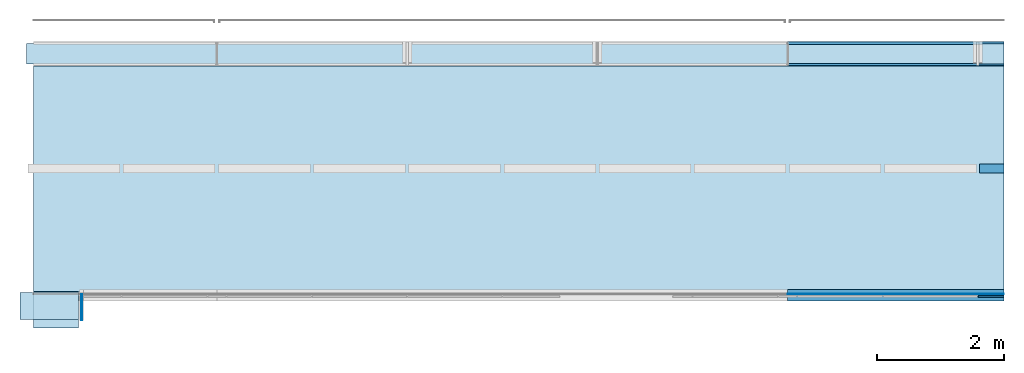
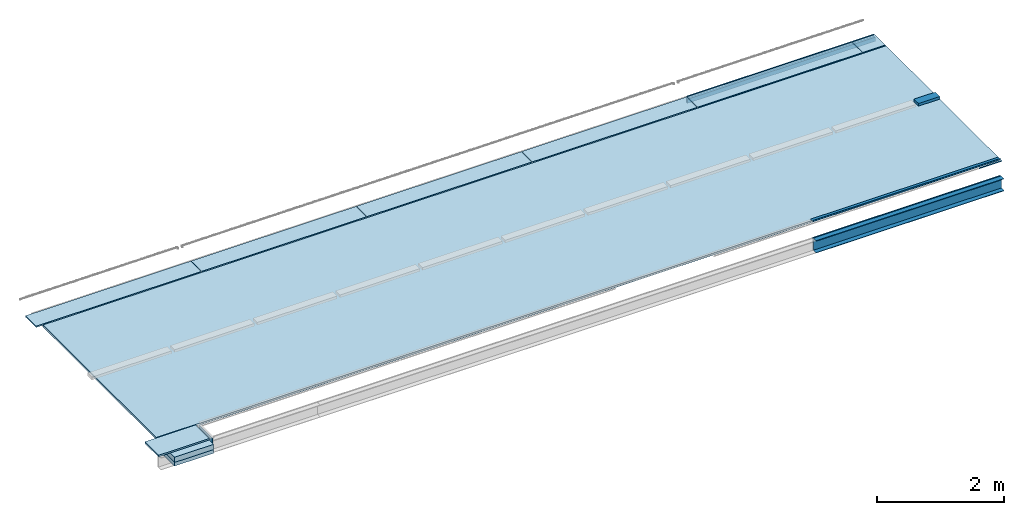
# One storey, part 2 of 3: 10 slabs, 7 beams, 1 member, 1 wall, 1 element without a shape of its own.
"""IFC2X3 building model written with IfcOpenShell, lengths in millimetres."""

from ifc_helpers import new_model, entity, si_unit, converted_unit, derived_unit, direction, frame, frame_2d, origin, origin_with_axes, place, context, subcontext, project, spatial, rectangle, extrude, faceted_brep, material, layer, layer_set, layer_usage, type_object, element, aggregate, save


model = new_model("IFC2X3")

# Units and contexts
model_context = context("Model", 3, precision=0.01, world=frame((0.0, 4.29681676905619e-09, 0.0)), true_north=direction((4.01073788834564e-13, 1.0)))
plan_context = context("Plan", 3, precision=0.01, world=frame((0.0, 4.29681676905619e-09, 0.0)), true_north=direction((4.01073788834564e-13, 1.0)))
body_context = subcontext(model_context, "Body", "Model", "MODEL_VIEW")
ifc_project = project(units=[converted_unit("PLANEANGLEUNIT", "DEGREE", entity("IfcPositiveLengthMeasure", 0.0174532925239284), si_unit("PLANEANGLEUNIT", "RADIAN"), dimensions=[0, 0, 0, 0, 0, 0, 0]), si_unit("AREAUNIT", "SQUARE_METRE"), si_unit("LENGTHUNIT", "METRE", prefix="MILLI"), si_unit("MASSUNIT", "GRAM", prefix="KILO"), si_unit("POWERUNIT", "WATT"), si_unit("PRESSUREUNIT", "PASCAL"), si_unit("FORCEUNIT", "NEWTON", prefix="KILO"), si_unit("ELECTRICVOLTAGEUNIT", "VOLT"), si_unit("ELECTRICCURRENTUNIT", "AMPERE"), si_unit("THERMODYNAMICTEMPERATUREUNIT", "DEGREE_CELSIUS"), si_unit("TIMEUNIT", "SECOND"), si_unit("VOLUMEUNIT", "CUBIC_METRE"), derived_unit("LINEARVELOCITYUNIT", [(si_unit("LENGTHUNIT", "METRE"), 1), (si_unit("TIMEUNIT", "SECOND"), -1)]), derived_unit("VOLUMETRICFLOWRATEUNIT", [(si_unit("VOLUMEUNIT", "CUBIC_METRE"), 1), (si_unit("TIMEUNIT", "SECOND"), -1)]), derived_unit("THERMALTRANSMITTANCEUNIT", [(si_unit("POWERUNIT", "WATT"), 1), (si_unit("THERMODYNAMICTEMPERATUREUNIT", "KELVIN"), -1), (si_unit("AREAUNIT", "SQUARE_METRE"), -1)]), derived_unit("SOUNDPRESSUREUNIT", [(si_unit("PRESSUREUNIT", "PASCAL"), 1)])], contexts=[model_context, plan_context])

# Site, building, storey
site_placement = place(None, origin_with_axes())
site = spatial("IfcSite", under=ifc_project, at=site_placement, Name="ENGM", CompositionType="ELEMENT")
building_placement = place(site_placement, origin_with_axes())
building = spatial("IfcBuilding", under=site, at=building_placement, Name="TH", CompositionType="ELEMENT")
storey_placement = place(building_placement, frame((0.0, 0.0, 213700.0), z_axis=(0.0, 0.0, 1.0), x_axis=(1.0, 0.0, 0.0)))
storey = spatial("IfcBuildingStorey", under=building, at=storey_placement, Name="Nivå G - 2,0 m", CompositionType="ELEMENT", Elevation=213700.0)

# Beams
beam_type_1 = type_object("IfcBeamType", Name="B223 - Bjelke - Flatstål:B223 - Bjelke - Flatstål - w240 h 8", PredefinedType="BEAM")
beam_1_placement = place(storey_placement, frame((907000.000000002, 480844.004374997, -300.0), z_axis=(0.0, 0.0, 1.0), x_axis=(1.0, 0.0, 0.0)))
element("IfcBeam", 1, at=beam_1_placement, inside=storey, type_object=beam_type_1, Name="B223 - Bjelke - Flatstål:B223 - Bjelke - Flatstål - w240 h 8", ObjectType="B223 - Bjelke - Flatstål:B223 - Bjelke - Flatstål - w240 h 8", context=body_context, shape_type="Brep", body=[
    faceted_brep([(3410.58484179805, 3.99999999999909, 7.37543359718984e-12), (3410.58484179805, -3.99999999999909, 7.37543359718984e-12), (0.0, -3.99999999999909, 7.37543359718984e-12), (0.0, 3.99999999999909, 7.37543359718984e-12), (3410.58484179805, -3.99999999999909, -240.000000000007), (0.0, -3.99999999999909, -240.000000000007), (3410.58484179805, 3.99999999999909, -240.000000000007), (0.0, 3.99999999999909, -240.000000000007)], [[[0, 1, 2, 3]], [[1, 4, 5, 2]], [[4, 6, 7, 5]], [[6, 0, 3, 7]], [[3, 2, 5, 7]], [[6, 4, 1, 0]]], orient=[[False], [False], [False], [False], [False], [False]]),
])
beam_type_2 = type_object("IfcBeamType", Name="B223 - Bjelke - UNP:B223 - UNP 240", PredefinedType="BEAM")
beam_2_placement = place(storey_placement, frame((907000.000000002, 480777.504374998, -300.0), z_axis=(0.0, 0.0, 1.0), x_axis=(1.0, 0.0, 0.0)))
element("IfcBeam", 2, at=beam_2_placement, inside=storey, type_object=beam_type_2, Name="B223 - Bjelke - UNP:B223 - UNP 240", ObjectType="B223 - Bjelke - UNP:B223 - UNP 240", context=body_context, shape_type="Brep", body=[
    faceted_brep([(3410.58484179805, 33.0000000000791, -224.923815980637), (3410.58484179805, -42.4999999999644, -229.673873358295), (0.0, -42.4999999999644, -229.673873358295), (0.0, 33.0000000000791, -224.923815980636), (3410.58484179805, -42.4999999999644, -240.0), (0.0, -42.4999999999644, -240.0), (3410.58484179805, 42.500000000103, -240.0), (0.0, 42.500000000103, -240.0), (3410.58484179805, 42.5000000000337, 0.0), (0.0, 42.5000000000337, 0.0), (3410.58484179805, -42.4999999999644, 0.0), (0.0, -42.4999999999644, 0.0), (3410.58484179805, -42.4999999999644, -10.3261266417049), (0.0, -42.4999999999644, -10.3261266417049), (3410.58484179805, 33.0000000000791, -15.0761840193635), (0.0, 33.0000000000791, -15.0761840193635)], [[[0, 1, 2, 3]], [[1, 4, 5, 2]], [[4, 6, 7, 5]], [[6, 8, 9, 7]], [[8, 10, 11, 9]], [[10, 12, 13, 11]], [[12, 14, 15, 13]], [[14, 0, 3, 15]], [[3, 2, 5, 7, 9, 11, 13, 15]], [[14, 12, 10, 8, 6, 4, 1, 0]]], orient=[[False], [False], [False], [False], [False], [False], [False], [False], [False], [False]]),
])
beam_type_3 = type_object("IfcBeamType", Name="B223 - Bjelke - L:B223 -80x25x4", PredefinedType="BEAM")
beam_3_placement = place(storey_placement, frame((907000.000000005, 480835.999999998, 0.0), z_axis=(0.0, 0.0, 1.0), x_axis=(1.0, 0.0, 0.0)))
element("IfcBeam", 3, at=beam_3_placement, inside=storey, type_object=beam_type_3, Name="B223 - Bjelke - L:B223 -80x25x4", ObjectType="B223 - Bjelke - L:B223 -80x25x4", context=body_context, shape_type="Brep", body=[
    faceted_brep([(3410.58484179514, 4.0, 25.0000000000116), (3410.58484179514, 0.0, 25.0000000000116), (0.0, 0.0, 25.0000000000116), (0.0, 4.0, 25.0000000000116), (3410.58484179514, 0.0, 0.0), (0.0, 0.0, 0.0), (3410.58484179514, 80.0, 0.0), (0.0, 80.0, 0.0), (3410.58484179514, 80.0, 3.99999999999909), (0.0, 80.0, 3.99999999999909), (3410.58484179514, 4.0, 3.99999999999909), (0.0, 4.0, 3.99999999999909)], [[[0, 1, 2, 3]], [[1, 4, 5, 2]], [[4, 6, 7, 5]], [[6, 8, 9, 7]], [[8, 10, 11, 9]], [[10, 0, 3, 11]], [[3, 2, 5, 7, 9, 11]], [[10, 8, 6, 4, 1, 0]]], orient=[[False], [False], [False], [False], [False], [False], [False], [False]]),
])
beam_type_4 = type_object("IfcBeamType", Name="B223 - Bjelke - L:B223 - 25x25x5", PredefinedType="BEAM")
beam_4_placement = place(storey_placement, frame((910007.500000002, 480820.004374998, 0.0), z_axis=(0.0, 0.0, 1.0), x_axis=(1.0, 0.0, 0.0)))
element("IfcBeam", 4, at=beam_4_placement, inside=storey, type_object=beam_type_4, Name="B223 - Bjelke - L:B223 - 25x25x5", ObjectType="B223 - Bjelke - L:B223 - 25x25x5", context=body_context, shape_type="Brep", body=[
    faceted_brep([(403.084841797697, 0.0, 0.0), (403.084841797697, -25.0, 0.0), (0.0, -25.0, 0.0), (0.0, 0.0, 0.0), (403.084841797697, -25.0, -5.0), (0.0, -25.0, -5.0), (403.084841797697, -5.0, -5.0), (0.0, -5.0, -5.0), (403.084841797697, -5.0, -25.0), (0.0, -5.0, -25.0), (403.084841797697, 0.0, -25.0), (0.0, 0.0, -25.0)], [[[0, 1, 2, 3]], [[1, 4, 5, 2]], [[4, 6, 7, 5]], [[6, 8, 9, 7]], [[8, 10, 11, 9]], [[10, 0, 3, 11]], [[3, 2, 5, 7, 9, 11]], [[10, 8, 6, 4, 1, 0]]], orient=[[False], [False], [False], [False], [False], [False], [False], [False]]),
])
beam_type_5 = type_object("IfcBeamType", Name="B223 - Bjelke - L:B223 - 40x40x4", PredefinedType="BEAM")
beam_5_placement = place(storey_placement, frame((907000.000000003, 484799.999999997, -40.0), z_axis=(0.0, 0.0, 1.0), x_axis=(1.0, 0.0, 0.0)))
element("IfcBeam", 5, at=beam_5_placement, inside=storey, type_object=beam_type_5, Name="B223 - Bjelke - L:B223 - 40x40x4", ObjectType="B223 - Bjelke - L:B223 - 40x40x4", context=body_context, shape_type="Brep", body=[
    faceted_brep([(3410.58484179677, 16.0000000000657, 3.99999999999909), (3410.58484179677, -19.9999999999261, 3.99999999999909), (0.0, -19.9999999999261, 3.99999999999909), (0.0, 16.0000000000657, 3.99999999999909), (3410.58484179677, -19.9999999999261, 0.0), (0.0, -19.9999999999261, 0.0), (3410.58484179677, 20.0000000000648, 0.0), (0.0, 20.0000000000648, 0.0), (3410.58484179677, 20.0000000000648, 39.9999999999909), (0.0, 20.0000000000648, 39.9999999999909), (3410.58484179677, 16.0000000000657, 39.9999999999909), (0.0, 16.0000000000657, 39.9999999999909)], [[[0, 1, 2, 3]], [[1, 4, 5, 2]], [[4, 6, 7, 5]], [[6, 8, 9, 7]], [[8, 10, 11, 9]], [[10, 0, 3, 11]], [[3, 2, 5, 7, 9, 11]], [[10, 8, 6, 4, 1, 0]]], orient=[[False], [False], [False], [False], [False], [False], [False], [False]]),
])
beam_6_placement = place(storey_placement, frame((907000.000000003, 484459.999999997, -40.0), z_axis=(0.0, 0.0, 1.0), x_axis=(1.0, 0.0, 0.0)))
element("IfcBeam", 6, at=beam_6_placement, inside=storey, type_object=beam_type_5, Name="B223 - Bjelke - L:B223 - 40x40x4", ObjectType="B223 - Bjelke - L:B223 - 40x40x4", context=body_context, shape_type="Brep", body=[
    faceted_brep([(3410.58484179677, -15.9999999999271, 39.9999999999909), (3410.58484179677, -19.9999999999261, 39.9999999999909), (0.0, -19.9999999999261, 39.9999999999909), (0.0, -15.9999999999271, 39.9999999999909), (3410.58484179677, -19.9999999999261, 0.0), (0.0, -19.9999999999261, 0.0), (3410.58484179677, 20.0000000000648, 0.0), (0.0, 20.0000000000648, 0.0), (3410.58484179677, 20.0000000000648, 3.99999999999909), (0.0, 20.0000000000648, 3.99999999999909), (3410.58484179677, -15.9999999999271, 3.99999999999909), (0.0, -15.9999999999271, 3.99999999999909)], [[[0, 1, 2, 3]], [[1, 4, 5, 2]], [[4, 6, 7, 5]], [[6, 8, 9, 7]], [[8, 10, 11, 9]], [[10, 0, 3, 11]], [[3, 2, 5, 7, 9, 11]], [[10, 8, 6, 4, 1, 0]]], orient=[[False], [False], [False], [False], [False], [False], [False], [False]]),
])
beam_type_6 = type_object("IfcBeamType", Name="B223 - Bjelke - HUP:B223 - HUP 40x80x4mm", PredefinedType="BEAM")
beam_7_placement = place(storey_placement, frame((907000.000000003, 484799.999999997, -120.0), z_axis=(0.0, 0.0, 1.0), x_axis=(1.0, 0.0, 0.0)))
element("IfcBeam", 7, at=beam_7_placement, inside=storey, type_object=beam_type_6, Name="B223 - Bjelke - HUP:B223 - HUP 40x80x4mm", ObjectType="B223 - Bjelke - HUP:B223 - HUP 40x80x4mm", context=body_context, shape_type="Brep", body=[
    faceted_brep([(3410.58484179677, 20.0000000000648, 79.9999999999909), (3410.58484179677, -19.9999999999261, 79.9999999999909), (0.0, -19.9999999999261, 79.9999999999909), (0.0, 20.0000000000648, 79.9999999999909), (3410.58484179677, -19.9999999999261, 9.09494701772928e-12), (0.0, -19.9999999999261, 9.09494701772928e-12), (3410.58484179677, 20.0000000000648, 9.09494701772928e-12), (0.0, 20.0000000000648, 9.09494701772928e-12), (0.0, 15.9999999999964, 4.00000000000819), (0.0, -15.9999999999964, 4.00000000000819), (0.0, -15.9999999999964, 75.9999999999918), (0.0, 15.9999999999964, 75.9999999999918), (3410.58484179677, -15.9999999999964, 75.9999999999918), (3410.58484179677, 15.9999999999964, 75.9999999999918), (3410.58484179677, -15.9999999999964, 4.00000000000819), (3410.58484179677, 15.9999999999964, 4.00000000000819)], [[[0, 1, 2, 3]], [[1, 4, 5, 2]], [[4, 6, 7, 5]], [[6, 0, 3, 7]], [[3, 2, 5, 7], [8, 9, 10, 11]], [[12, 13, 11, 10]], [[14, 12, 10, 9]], [[15, 14, 9, 8]], [[13, 15, 8, 11]], [[6, 4, 1, 0], [14, 15, 13, 12]]], orient=[[False], [False], [False], [False], [False, False], [False], [False], [False], [False], [False, False]]),
])

# Curtain wall, member
curtain_wall_type = type_object("IfcCurtainWallType", Name="Curtain Wall:A242 - IGV", PredefinedType="NOTDEFINED")
curtain_wall_placement = place(storey_placement, frame((0.0, 0.0, -213700.0), z_axis=(0.0, 0.0, 1.0), x_axis=(1.0, 0.0, 0.0)))
curtain_wall = element("IfcCurtainWall", 8, at=curtain_wall_placement, inside=storey, type_object=curtain_wall_type, Name="Curtain Wall:A242 - IGV", ObjectType="Curtain Wall:A242 - IGV")
ifc_material_1 = material(Name="T2_Metal_Aluminium")
member_type = type_object("IfcMemberType", Name="Rectangular Mullion:A233 - Sprosse 50 mm - 100(post)+40(dekkprofil)", PredefinedType="MULLION", material=ifc_material_1)
member_placement = place(curtain_wall_placement, frame((911475.045795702, 482793.174999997, 213700.0), z_axis=(1.0, 0.0, 0.0), x_axis=(0.0, 0.0, -1.0)))
member = element("IfcMember", 9, at=member_placement, type_object=member_type, Name="Rectangular Mullion:A233 - Sprosse 50 mm - 100(post)+40(dekkprofil)", ObjectType="Rectangular Mullion:A233 - Sprosse 50 mm - 100(post)+40(dekkprofil)", context=body_context, shape_type="Brep", body=[
    faceted_brep([(0.0, 99.999999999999, -1064.46095390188), (-50.0, 99.999999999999, -1064.46095390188), (-50.0, 99.999999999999, -1450.0), (0.0, 99.999999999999, -1450.0), (-50.0, -39.999999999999, -1064.46095390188), (-50.0, -39.999999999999, -1450.0), (0.0, -39.999999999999, -1064.46095390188), (0.0, -39.999999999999, -1450.0)], [[[0, 1, 2, 3]], [[1, 4, 5, 2]], [[4, 6, 7, 5]], [[6, 0, 3, 7]], [[3, 2, 5, 7]], [[6, 4, 1, 0]]], orient=[[False], [False], [False], [False], [False], [False]]),
])
aggregate(curtain_wall, [member])

# Slabs
ifc_material_2 = material(Name="Glass(Avinor)")
ifc_layer_1 = layer(ifc_material_2, 27.0)
ifc_layer_set_1 = layer_set([ifc_layer_1], Name="Floor:A254 - eksisterende gangbar glass pir - 27mm")
ifc_layer_usage_1 = layer_usage(ifc_layer_set_1, "AXIS3", "POSITIVE", 0.0)
slab_type_1 = type_object("IfcSlabType", Name="Floor:A254 - eksisterende gangbar glass pir - 27mm", PredefinedType="FLOOR", material=ifc_layer_set_1)
slab_1_placement = place(storey_placement, origin_with_axes())
element("IfcSlab", 10, at=slab_1_placement, inside=storey, type_object=slab_type_1, material=ifc_layer_usage_1, Name="Floor:A254 - eksisterende gangbar glass pir - 27mm", ObjectType="Floor:A254 - eksisterende gangbar glass pir - 27mm", PredefinedType="FLOOR", context=body_context, shape_type="SweptSolid", body=[
    extrude(rectangle(XDim=330.000000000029, YDim=2995.00000000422, at=frame_2d((-3.46602746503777e-11, -1.10890141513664e-09), x_axis=(1.0, 0.0))), frame((896500.0, 484630.000000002, 0.0), z_axis=(0.0, 0.0, -1.0), x_axis=(0.0, 1.0, 0.0)), (0.0, 0.0, 1.0), 27.0000000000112),
])
ifc_layer_usage_2 = layer_usage(ifc_layer_set_1, "AXIS3", "POSITIVE", 0.0)
slab_2_placement = place(storey_placement, origin_with_axes())
element("IfcSlab", 11, at=slab_2_placement, inside=storey, type_object=slab_type_1, material=ifc_layer_usage_2, Name="Floor:A254 - eksisterende gangbar glass pir - 27mm", ObjectType="Floor:A254 - eksisterende gangbar glass pir - 27mm", PredefinedType="FLOOR", context=body_context, shape_type="SweptSolid", body=[
    extrude(rectangle(XDim=330.000000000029, YDim=2995.00000000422, at=frame_2d((-3.46602746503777e-11, -9.70203473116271e-10), x_axis=(1.0, 0.0))), frame((899500.0, 484630.000000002, 0.0), z_axis=(0.0, 0.0, -1.0), x_axis=(0.0, 1.0, 0.0)), (0.0, 0.0, 1.0), 27.0000000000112),
])
ifc_layer_usage_3 = layer_usage(ifc_layer_set_1, "AXIS3", "POSITIVE", 0.0)
slab_3_placement = place(storey_placement, origin_with_axes())
element("IfcSlab", 12, at=slab_3_placement, inside=storey, type_object=slab_type_1, material=ifc_layer_usage_3, Name="Floor:A254 - eksisterende gangbar glass pir - 27mm", ObjectType="Floor:A254 - eksisterende gangbar glass pir - 27mm", PredefinedType="FLOOR", context=body_context, shape_type="SweptSolid", body=[
    extrude(rectangle(XDim=330.000000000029, YDim=2995.00000000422, at=frame_2d((-3.46602746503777e-11, -1.10890141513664e-09), x_axis=(1.0, 0.0))), frame((902500.0, 484630.000000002, 0.0), z_axis=(0.0, 0.0, -1.0), x_axis=(0.0, 1.0, 0.0)), (0.0, 0.0, 1.0), 27.0000000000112),
])
ifc_layer_usage_4 = layer_usage(ifc_layer_set_1, "AXIS3", "POSITIVE", 0.0)
slab_4_placement = place(storey_placement, origin_with_axes())
element("IfcSlab", 13, at=slab_4_placement, inside=storey, type_object=slab_type_1, material=ifc_layer_usage_4, Name="Floor:A254 - eksisterende gangbar glass pir - 27mm", ObjectType="Floor:A254 - eksisterende gangbar glass pir - 27mm", PredefinedType="FLOOR", context=body_context, shape_type="SweptSolid", body=[
    extrude(rectangle(XDim=330.000000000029, YDim=2995.00000000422, at=frame_2d((-3.46602746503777e-11, -9.70203473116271e-10), x_axis=(1.0, 0.0))), frame((905500.0, 484630.000000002, 0.0), z_axis=(0.0, 0.0, -1.0), x_axis=(0.0, 1.0, 0.0)), (0.0, 0.0, 1.0), 27.0000000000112),
])
ifc_layer_usage_5 = layer_usage(ifc_layer_set_1, "AXIS3", "POSITIVE", 0.0)
slab_5_placement = place(storey_placement, origin_with_axes())
element("IfcSlab", 14, at=slab_5_placement, inside=storey, type_object=slab_type_1, material=ifc_layer_usage_5, Name="Floor:A254 - eksisterende gangbar glass pir - 27mm", ObjectType="Floor:A254 - eksisterende gangbar glass pir - 27mm", PredefinedType="FLOOR", context=body_context, shape_type="SweptSolid", body=[
    extrude(rectangle(XDim=330.000000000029, YDim=2995.00000000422, at=frame_2d((-3.46602746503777e-11, -1.10890141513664e-09), x_axis=(1.0, 0.0))), frame((908500.0, 484630.000000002, 0.0), z_axis=(0.0, 0.0, -1.0), x_axis=(0.0, 1.0, 0.0)), (0.0, 0.0, 1.0), 27.0000000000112),
])
slab_6_placement = place(storey_placement, origin_with_axes())
element("IfcSlab", 15, at=slab_6_placement, inside=storey, type_object=slab_type_1, Name="Floor:A254 - eksisterende gangbar glass pir - 27mm", ObjectType="Floor:A254 - eksisterende gangbar glass pir - 27mm", PredefinedType="FLOOR", context=body_context, shape_type="Brep", body=[
    faceted_brep([(910410.5848418, 484465.000000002, 0.0), (910410.5848418, 484465.000000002, -27.0000000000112), (910002.499999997, 484465.000000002, -27.0000000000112), (910002.499999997, 484465.000000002, 0.0), (910002.499999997, 484795.000000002, -27.0000000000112), (910002.499999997, 484795.000000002, 0.0), (910410.5848418, 484795.000000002, -27.0000000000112), (910410.5848418, 484795.000000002, 0.0)], [[[0, 1, 2, 3]], [[3, 2, 4, 5]], [[6, 7, 5, 4]], [[7, 0, 3, 5]], [[1, 6, 4, 2]], [[7, 6, 1, 0]]], orient=[[False], [False], [False], [False], [False], [False]]),
])
ifc_material_3 = material(Name="T2 - Dekke uten skravur")
ifc_layer_2 = layer(ifc_material_3, 40.0)
ifc_layer_set_2 = layer_set([ifc_layer_2], Name="Floor:A254  - Gulvoppbygging m_f.o - 40mm - tre")
slab_type_2 = type_object("IfcSlabType", Name="Floor:A254  - Gulvoppbygging m_f.o - 40mm - tre", PredefinedType="FLOOR", material=ifc_layer_set_2)
slab_7_placement = place(storey_placement, origin_with_axes())
element("IfcSlab", 16, at=slab_7_placement, inside=storey, type_object=slab_type_2, Name="Floor:A254  - Gulvoppbygging m_f.o - 40mm - tre", ObjectType="Floor:A254  - Gulvoppbygging m_f.o - 40mm - tre", PredefinedType="FLOOR", context=body_context, shape_type="Brep", body=[
    faceted_brep([(895111.906168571, 484440.009277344, 0.0), (895111.906168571, 484440.009277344, -39.9999999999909), (910410.5848418, 484440.009277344, -39.9999999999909), (910410.5848418, 484440.009277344, 0.0), (910410.5848418, 480879.999999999, 0.0), (910410.5848418, 480879.999999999, -39.9999999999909), (895111.906168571, 480879.999999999, -39.9999999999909), (895111.906168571, 480879.999999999, 0.0)], [[[0, 1, 2, 3]], [[4, 5, 6, 7]], [[3, 4, 7, 0]], [[5, 2, 1, 6]], [[5, 4, 3, 2]], [[7, 6, 1, 0]]], orient=[[False], [False], [False], [False], [False], [False]]),
])
ifc_material_4 = material(Name="_NSW Generell Gulv (Floor)")
ifc_layer_3 = layer(ifc_material_4, 70.0)
ifc_layer_set_3 = layer_set([ifc_layer_3], Name="Floor:B251 - TRP - 70 mm")
slab_type_3 = type_object("IfcSlabType", Name="Floor:B251 - TRP - 70 mm", PredefinedType="FLOOR", material=ifc_layer_set_3)
slab_8_placement = place(storey_placement, origin_with_axes())
element("IfcSlab", 17, at=slab_8_placement, inside=storey, type_object=slab_type_3, Name="Floor:B251 - TRP - 70 mm", ObjectType="Floor:B251 - TRP - 70 mm", PredefinedType="FLOOR", context=body_context, shape_type="Brep", body=[
    faceted_brep([(895111.906168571, 480305.0, -199.999999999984), (895111.906168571, 480305.0, -130.0), (895822.312500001, 480305.0, -130.0), (895822.312500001, 480305.0, -199.999999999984), (895111.906168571, 480880.0, -130.0), (895111.906168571, 480880.0, -199.999999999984), (895822.312500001, 480880.0, -199.999999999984), (895822.312500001, 480880.0, -130.0)], [[[0, 1, 2, 3]], [[4, 5, 6, 7]], [[7, 6, 3, 2]], [[1, 4, 7, 2]], [[5, 0, 3, 6]], [[5, 4, 1, 0]]], orient=[[False], [False], [False], [False], [False], [False]]),
])
ifc_material_5 = material(Name="_NSW Stål")
ifc_layer_4 = layer(ifc_material_5, 5.0)
ifc_material_6 = material(Name="_NSW Generell")
ifc_layer_5 = layer(ifc_material_6, 25.0)
ifc_layer_set_4 = layer_set([ifc_layer_4, ifc_layer_5], Name="Floor:A254  - Gulvoppbygging m_f.o - 30mm - stålplategulv")
ifc_layer_usage_6 = layer_usage(ifc_layer_set_4, "AXIS3", "POSITIVE", 0.0)
slab_type_4 = type_object("IfcSlabType", Name="Floor:A254  - Gulvoppbygging m_f.o - 30mm - stålplategulv", PredefinedType="FLOOR", material=ifc_layer_set_4)
slab_9_placement = place(storey_placement, frame((891178.0, 480440.0, -30.0), z_axis=(0.0, 0.0, 1.0), x_axis=(1.0, 0.0, 0.0)))
element("IfcSlab", 18, at=slab_9_placement, inside=storey, type_object=slab_type_4, material=ifc_layer_usage_6, Name="Floor:A254  - Gulvoppbygging m_f.o - 30mm - stålplategulv", ObjectType="Floor:A254  - Gulvoppbygging m_f.o - 30mm - stålplategulv", PredefinedType="FLOOR", context=body_context, shape_type="SweptSolid", body=[
    extrude(rectangle(XDim=924.86250000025, YDim=430.000000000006, at=frame_2d((-1859.72499999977, 0.0), x_axis=(-1.0, 0.0))), frame((2322.15625000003, 215.0, 30.0), z_axis=(0.0, 0.0, -1.0), x_axis=(-1.0, 0.0, 0.0)), (0.0, 0.0, 1.0), 29.9999999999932),
])
ifc_material_7 = material(Name="_NSW Gulv (Generell)")
ifc_layer_6 = layer(ifc_material_7, 100.0)
ifc_layer_set_5 = layer_set([ifc_layer_6], Name="Floor:B254 - Påstøp m/f.o - 100 mm")
slab_type_5 = type_object("IfcSlabType", Name="Floor:B254 - Påstøp m/f.o - 100 mm", PredefinedType="FLOOR", material=ifc_layer_set_5)
slab_10_placement = place(storey_placement, origin_with_axes())
element("IfcSlab", 19, at=slab_10_placement, inside=storey, type_object=slab_type_5, Name="Floor:B254 - Påstøp m/f.o - 100 mm", ObjectType="Floor:B254 - Påstøp m/f.o - 100 mm", PredefinedType="FLOOR", context=body_context, shape_type="Brep", body=[
    faceted_brep([(895111.906168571, 480305.0, -130.000000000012), (895111.906168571, 480305.0, -30.0), (895822.312500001, 480305.0, -30.0), (895822.312500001, 480305.0, -130.000000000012), (895111.906168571, 480880.0, -30.0), (895111.906168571, 480880.0, -130.000000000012), (895822.312500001, 480880.0, -130.000000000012), (895822.312500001, 480880.0, -30.0)], [[[0, 1, 2, 3]], [[4, 5, 6, 7]], [[7, 6, 3, 2]], [[1, 4, 7, 2]], [[5, 0, 3, 6]], [[5, 4, 1, 0]]], orient=[[False], [False], [False], [False], [False], [False]]),
])

# Wall
ifc_material_8 = material(Name="T2_Gips Protect F")
ifc_layer_7 = layer(ifc_material_8, 15.0)
ifc_layer_set_6 = layer_set([ifc_layer_7], Name="Basic Wall:A241 - F-15")
ifc_layer_usage_7 = layer_usage(ifc_layer_set_6, "AXIS2", "POSITIVE", -7.5)
wall_type = type_object("IfcWallType", Name="Basic Wall:A241 - F-15", PredefinedType="STANDARD", material=ifc_layer_set_6)
wall_placement = place(storey_placement, frame((895874.500000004, 480427.5, -237.5), z_axis=(0.0, 0.0, 1.0), x_axis=(0.0, 1.0, 0.0)))
element("IfcWallStandardCase", 20, at=wall_placement, inside=storey, type_object=wall_type, material=ifc_layer_usage_7, Name="Basic Wall:A241 - F-15", ObjectType="Basic Wall:A241 - F-15", context=body_context, shape_type="SweptSolid", body=[
    extrude(rectangle(XDim=413.500000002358, YDim=14.9999999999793, at=frame_2d((206.750000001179, 3.46518369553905e-11), x_axis=(-1.0, 0.0))), origin(), (0.0, 0.0, 1.0), 230.499999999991),
])

save(model, "model.ifc")
